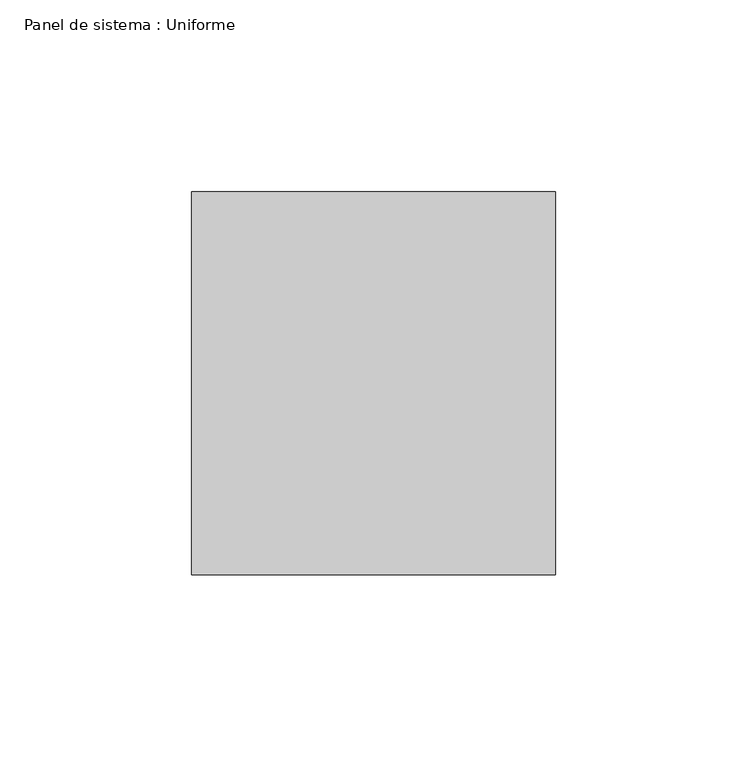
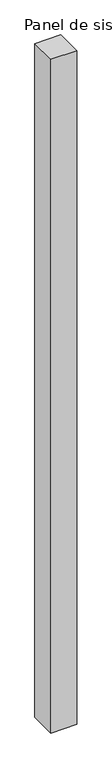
"""IFC4 building model written with IfcOpenShell, lengths in millimetres: plate geometry, Panel de sistema : Uniforme."""

from ifc_helpers import new_model, si_unit, origin, origin_with_axes, place, context, project, spatial, polyline, outline, extrude, source, transform, mapped, element, save


def panel_de_sistema_uniforme_3fbd935b(model_context):
    return source(origin(), model_context, "Body", "SweptSolid", [
        extrude(outline(polyline([(47.5, -50.0), (-47.5, -50.0), (-47.5, 50.0), (47.5, 50.0), (47.5, -50.0)])), origin_with_axes(), (0.0, 0.0, 1.0), 2600.0),
    ])


if __name__ == "__main__":
    model = new_model("IFC4")
    model_context = context("Model", 3, world=origin())
    ifc_project = project(units=[si_unit("LENGTHUNIT", "METRE", prefix="MILLI")], contexts=[model_context])
    site = spatial("IfcSite", under=ifc_project)
    building = spatial("IfcBuilding", under=site)
    placement = place(None, origin())
    panel_de_sistema_uniforme_shape = panel_de_sistema_uniforme_3fbd935b(model_context)
    element("IfcPlate", 1, ObjectType="Panel de sistema : Uniforme", at=placement, inside=building, context=model_context, shape_type="MappedRepresentation", body=[
        mapped(panel_de_sistema_uniforme_shape, transform((0.0, 0.0, 0.0), x_axis=(1.0, 0.0, 0.0), y_axis=(0.0, 1.0, 0.0), z_axis=(0.0, 0.0, 1.0))),
    ])
    save(model, "model.ifc")
